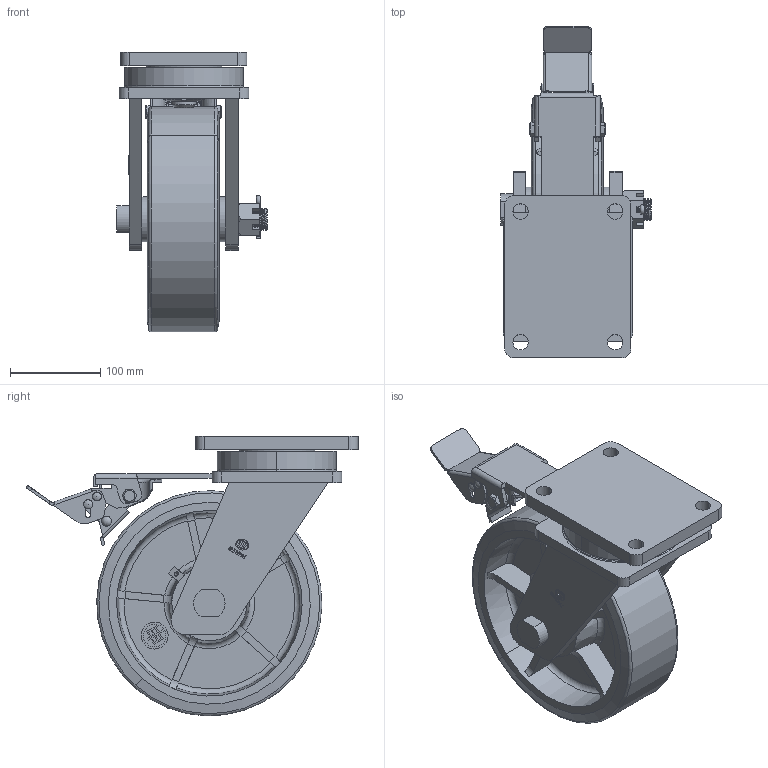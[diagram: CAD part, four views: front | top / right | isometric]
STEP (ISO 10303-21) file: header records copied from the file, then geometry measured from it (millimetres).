
FILE_DESCRIPTION(/* description */ (''),/* implementation_level */ '2;1');
FILE_NAME(/* name */ '40A29_10_F.stp',/* time_stamp */ '2022-08-29T10:16:25+08:00',/* author */ (''),/* organization */ (''),/* preprocessor_version */ 'ST-DEVELOPER v14',/* originating_system */ 'SIEMENS PLM Software NX 8.0',/* authorisation */ '');
FILE_SCHEMA (('AUTOMOTIVE_DESIGN { 1 0 10303 214 3 1 1 1 }'));
Length unit declared in the file: millimetre
Products named in the file (1): 40A29_10_F
Bounding box: 167 x 368.46 x 310.45 mm (x, y, z)
Volume: 3607246.7 mm3; surface area: 517181.8 mm2
Topology: 1 solids, 2 shells, 968 faces, 2734 edges, 1799 vertices
Faces by surface type: plane 519, cylinder 305, cone 49, torus 48, extrusion 33, bspline 13, sphere 1
Full cylindrical faces by diameter (mm): 5 x3, 5.9 x1, 6 x2, 6.2 x3, 6.3 x4, 8.2 x6, 8.5 x2, 10 x2, 16 x2, 39 x1
Entity records: 38541 total; most frequent: CARTESIAN_POINT 13537, ORIENTED_EDGE 5352, DIRECTION 4335, EDGE_CURVE 2676, VERTEX_POINT 1783, AXIS2_PLACEMENT_3D 1512, VECTOR 1311, LINE 1278
